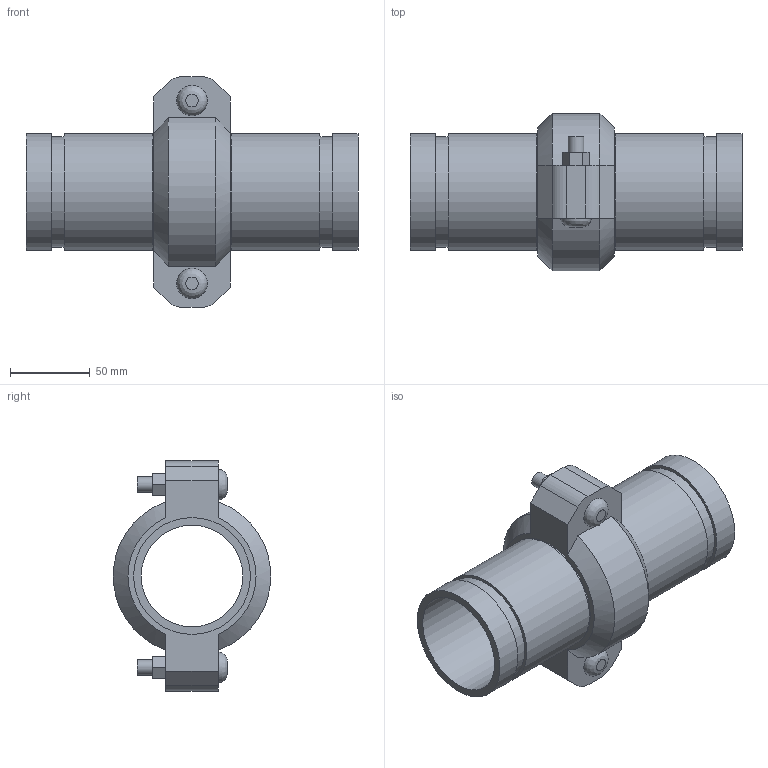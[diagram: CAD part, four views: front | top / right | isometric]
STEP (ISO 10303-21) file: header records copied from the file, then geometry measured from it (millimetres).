
FILE_DESCRIPTION(/* description */ ('VIC EXPANSION JOINT 1 COUPLING EXPANDED STYLE 155 (OGS)','CAx-IF Rec.Pracs.---Representation and Presentation of Product Manufacturing Information (PMI)---4.0---2014-10-13'),/* implementation_level */ '2;1');
FILE_NAME(/* name */ 'C:\Users\kkamble\AppData\Roaming\Autodesk\ApplicationPlugins\Victaulic.Temp\A694\Victaulic_IPS_Expansion Joint_Expanded_1 Coupling_Style 155 (OGS)_2.5 (65).stp',/* time_stamp */ '2021-06-26T23:47:25+02:00',/* author */ ('kkamble'),/* organization */ ('Victaulic'),/* preprocessor_version */ 'ST-DEVELOPER v17.2',/* originating_system */ 'Autodesk Inventor 2019',/* authorisation */ '');
FILE_SCHEMA (('AP242_MANAGED_MODEL_BASED_3D_ENGINEERING_MIM_LF { 1 0 10303 442 1 1 4 }'));
Length unit declared in the file: inch
Products named in the file (3): 155-02.5; Nipple-02.5; 075-02.5
Assembly tree (3 placements, depth 2):
  155-02.5
    Nipple-02.5  x2
    075-02.5
Bounding box: 207.52 x 98.22 x 144.27 mm (x, y, z)
Volume: 412542.5 mm3; surface area: 139580.4 mm2
Topology: 3 solids, 5 shells, 81 faces, 193 edges, 138 vertices
Faces by surface type: plane 48, cylinder 27, cone 4, bspline 2
Full cylindrical faces by diameter (mm): 9.525 x4, 11.43 x2, 63.475 x2, 66.675 x1, 69.088 x4, 73.025 x8
Entity records: 2301 total; most frequent: CARTESIAN_POINT 420, DIRECTION 369, ORIENTED_EDGE 326, EDGE_CURVE 163, AXIS2_PLACEMENT_3D 141, VERTEX_POINT 114, EDGE_LOOP 89, LINE 87
